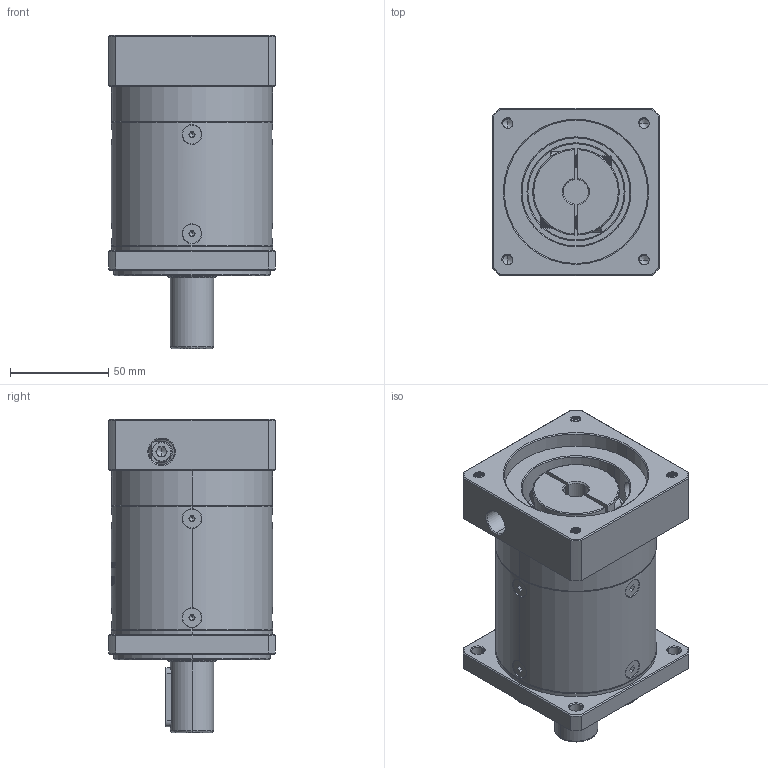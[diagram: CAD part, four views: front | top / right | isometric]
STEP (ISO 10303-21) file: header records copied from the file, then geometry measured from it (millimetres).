
FILE_DESCRIPTION (( 'STEP AP214' ), '1' );
FILE_NAME ('ZF80-D22-L2-12.7-73-69.5X69.5-M6.step', '2022-05-08T09:17:46', ( '' ), ( 'Microsoft' ), 'SwSTEP 2.0', 'SolidWorks 2016', '' );
FILE_SCHEMA (( 'AUTOMOTIVE_DESIGN' ));
Length unit declared in the file: millimetre
Products named in the file (1): ZF80-D22-L2-12.7-73-69.5X69.5-M6
Bounding box: 85 x 85 x 159.5 mm (x, y, z)
Volume: 649999.4 mm3; surface area: 94489.6 mm2
Topology: 13 solids, 13 shells, 1980 faces, 5130 edges, 3244 vertices
Faces by surface type: plane 896, cylinder 408, cone 339, bspline 320, torus 17
Entity records: 107879 total; most frequent: CARTESIAN_POINT 41352, ORIENTED_EDGE 10200, DIRECTION 8041, EDGE_CURVE 5100, VERTEX_POINT 3244, VECTOR 2765, LINE 2765, AXIS2_PLACEMENT_3D 2638
